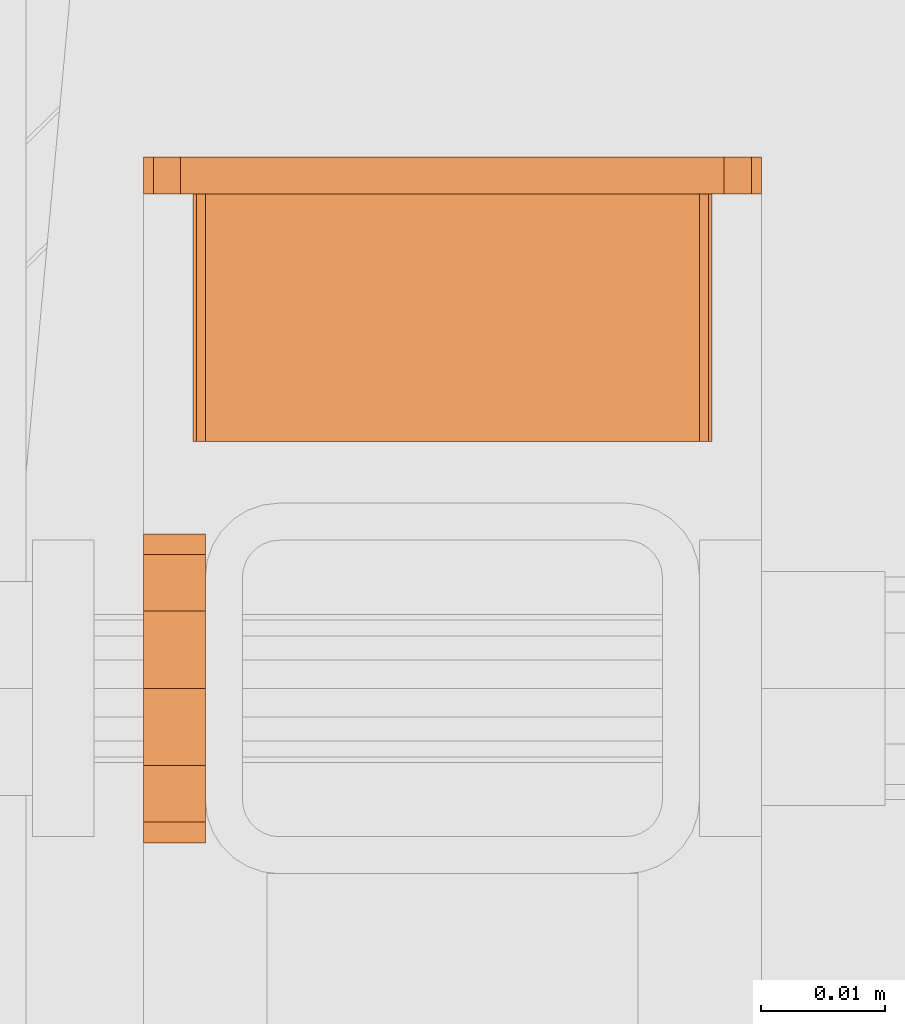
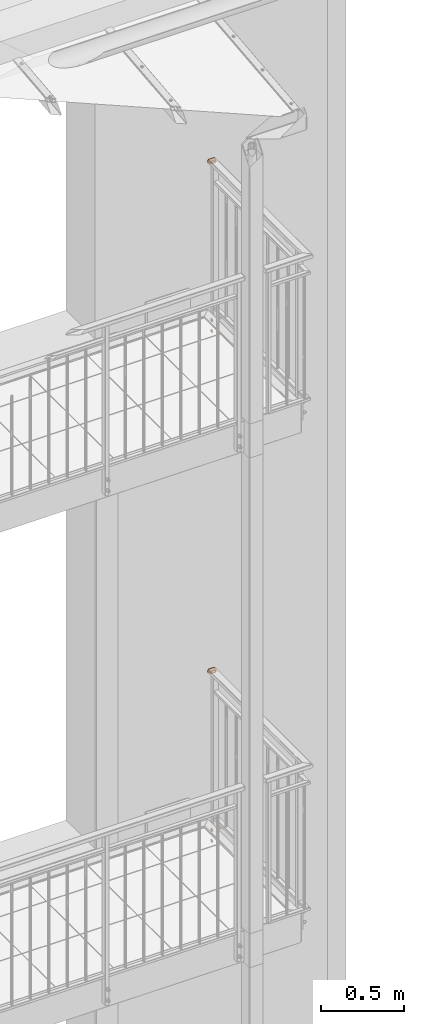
# One storey, part 146 of 162: 6 proxies.
"""IFC2X3 building model written with IfcOpenShell, lengths in millimetres."""

from ifc_helpers import new_model, entity, si_unit, converted_unit, origin_with_axes, place, context, project, spatial, faceted_brep, material, element, save


model = new_model("IFC2X3")

# Units and contexts
model_context = context("Model", 3, precision=1e-09, world=origin_with_axes())
ifc_project = project(units=[si_unit("LENGTHUNIT", "METRE", prefix="MILLI"), si_unit("AREAUNIT", "SQUARE_METRE"), si_unit("VOLUMEUNIT", "CUBIC_METRE"), converted_unit("PLANEANGLEUNIT", "DEGREE", entity("IfcPlaneAngleMeasure", 0.01745329), si_unit("PLANEANGLEUNIT", "RADIAN"), dimensions=[0, 0, 0, 0, 0, 0, 0])], contexts=[model_context])

# Site, building, storey
site_placement = place(None, origin_with_axes())
site = spatial("IfcSite", under=ifc_project, at=site_placement, Name="Hermannstra?e 1a, 60318 Frankfurt", CompositionType="ELEMENT")
building_placement = place(site_placement, origin_with_axes())
building = spatial("IfcBuilding", under=site, at=building_placement, Name="Struktur 1", CompositionType="ELEMENT")
storey_placement = place(building_placement, origin_with_axes())
storey = spatial("IfcBuildingStorey", under=building, at=storey_placement, Name="Default Storey", CompositionType="ELEMENT", Elevation=0.0)

# Proxies
ifc_material = material(Name="Kein")
proxy_1_placement = place(None, origin_with_axes())
element("IfcBuildingElementProxy", 1, at=proxy_1_placement, inside=storey, material=ifc_material, ObjectType="-", context=model_context, shape_type="Brep", body=[
    faceted_brep([(5869.30936482, 2650.609373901, 12573.999), (5869.30936482, 2650.609373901, 12555.999), (5869.30936482, 2670.609373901, 12555.999), (5869.30936482, 2670.609373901, 12573.999), (5869.041415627, 2670.609373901, 12574.999), (5869.041415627, 2650.609373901, 12574.999), (5868.30936482, 2650.609373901, 12575.731050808), (5868.30936482, 2670.609373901, 12575.731050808), (5867.30936482, 2670.609373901, 12575.999), (5867.30936482, 2650.609373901, 12575.999), (5869.041415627, 2650.609373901, 12554.999), (5869.041415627, 2670.609373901, 12554.999), (5868.30936482, 2650.609373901, 12554.266949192), (5868.30936482, 2670.609373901, 12554.266949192), (5829.30936482, 2650.609373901, 12575.999), (5828.30936482, 2650.609373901, 12575.731050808), (5827.577314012, 2650.609373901, 12574.999), (5827.30936482, 2650.609373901, 12573.999), (5827.30936482, 2650.609373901, 12555.999), (5827.577314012, 2650.609373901, 12554.999), (5828.30936482, 2650.609373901, 12554.266949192), (5829.30936482, 2650.609373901, 12553.999), (5867.30936482, 2650.609373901, 12553.999), (5865.30936482, 2650.609373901, 12571.999), (5865.30936482, 2650.609373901, 12557.999), (5831.30936482, 2650.609373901, 12557.999), (5831.30936482, 2650.609373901, 12571.999), (5867.30936482, 2670.609373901, 12553.999), (5829.30936482, 2670.609373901, 12553.999), (5828.30936482, 2670.609373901, 12554.266949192), (5827.577314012, 2670.609373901, 12554.999), (5827.30936482, 2670.609373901, 12555.999), (5827.30936482, 2670.609373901, 12573.999), (5827.577314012, 2670.609373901, 12574.999), (5828.30936482, 2670.609373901, 12575.731050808), (5829.30936482, 2670.609373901, 12575.999), (5865.30936482, 2670.609373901, 12571.999), (5865.30936482, 2670.609373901, 12557.999), (5831.30936482, 2670.609373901, 12557.999), (5831.30936482, 2670.609373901, 12571.999)], [[[0, 1, 2, 3]], [[0, 3, 4, 5]], [[6, 7, 8, 9]], [[5, 4, 7, 6]], [[2, 1, 10, 11]], [[11, 10, 12, 13]], [[5, 6, 9, 14, 15, 16, 17, 18, 19, 20, 21, 22, 12, 10, 1, 0], [23, 24, 25, 26]], [[3, 2, 11, 13, 27, 28, 29, 30, 31, 32, 33, 34, 35, 8, 7, 4]], [[34, 15, 14, 35]], [[14, 9, 8, 35]], [[36, 37, 24, 23]], [[15, 34, 33, 16]], [[13, 12, 22, 27]], [[25, 24, 37, 38]], [[22, 21, 28, 27]], [[28, 21, 20, 29]], [[39, 36, 23, 26]], [[16, 33, 32, 17]], [[29, 20, 19, 30]], [[26, 25, 38, 39]], [[18, 17, 32, 31]], [[30, 19, 18, 31]]]),
    faceted_brep([(5867.30936482, 2670.609373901, 12549.999), (5867.30936482, 2673.609373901, 12549.999), (5870.30936482, 2673.609373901, 12550.802847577), (5870.30936482, 2670.609373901, 12550.802847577), (5872.505517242, 2673.609373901, 12552.999), (5872.505517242, 2670.609373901, 12552.999), (5829.30936482, 2673.609373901, 12549.999), (5829.30936482, 2670.609373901, 12549.999), (5826.30936482, 2670.609373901, 12550.802847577), (5826.30936482, 2673.609373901, 12550.802847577), (5824.113212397, 2670.609373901, 12552.999), (5824.113212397, 2673.609373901, 12552.999), (5873.30936482, 2670.609373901, 12555.999), (5873.30936482, 2670.609373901, 12573.999), (5872.505517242, 2670.609373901, 12576.999), (5870.30936482, 2670.609373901, 12579.195152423), (5867.30936482, 2670.609373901, 12579.999), (5829.30936482, 2670.609373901, 12579.999), (5826.30936482, 2670.609373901, 12579.195152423), (5824.113212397, 2670.609373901, 12576.999), (5823.30936482, 2670.609373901, 12573.999), (5823.30936482, 2670.609373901, 12555.999), (5823.30936482, 2673.609373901, 12555.999), (5823.30936482, 2673.609373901, 12573.999), (5824.113212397, 2673.609373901, 12576.999), (5826.30936482, 2673.609373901, 12579.195152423), (5829.30936482, 2673.609373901, 12579.999), (5867.30936482, 2673.609373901, 12579.999), (5870.30936482, 2673.609373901, 12579.195152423), (5872.505517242, 2673.609373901, 12576.999), (5873.30936482, 2673.609373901, 12573.999), (5873.30936482, 2673.609373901, 12555.999)], [[[0, 1, 2, 3]], [[3, 2, 4, 5]], [[6, 7, 8, 9]], [[9, 8, 10, 11]], [[5, 12, 13, 14, 15, 16, 17, 18, 19, 20, 21, 10, 8, 7, 0, 3]], [[6, 1, 0, 7]], [[11, 22, 23, 24, 25, 26, 27, 28, 29, 30, 31, 4, 2, 1, 6, 9]], [[5, 4, 31, 12]], [[13, 12, 31, 30]], [[11, 10, 21, 22]], [[28, 15, 14, 29]], [[29, 14, 13, 30]], [[15, 28, 27, 16]], [[23, 22, 21, 20]], [[17, 16, 27, 26]], [[23, 20, 19, 24]], [[25, 18, 17, 26]], [[24, 19, 18, 25]]]),
])
proxy_2_placement = place(None, origin_with_axes())
element("IfcBuildingElementProxy", 2, at=proxy_2_placement, inside=storey, material=ifc_material, ObjectType="-", context=model_context, shape_type="Brep", body=[
    faceted_brep([(5828.30936482, 2619.784056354, 11413.749), (5828.30936482, 2624.359373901, 11409.173682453), (5828.30936482, 2630.609373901, 11407.499), (5828.30936482, 2636.859373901, 11409.173682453), (5828.30936482, 2641.434691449, 11413.749), (5828.30936482, 2643.109373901, 11419.999), (5828.30936482, 2641.434691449, 11426.249), (5828.30936482, 2636.859373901, 11430.824317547), (5828.30936482, 2630.609373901, 11432.499), (5828.30936482, 2624.359373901, 11430.824317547), (5828.30936482, 2619.784056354, 11426.249), (5828.30936482, 2618.109373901, 11419.999), (5828.30936482, 2630.609373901, 11413.999), (5828.30936482, 2627.609373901, 11414.802847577), (5828.30936482, 2625.413221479, 11416.999), (5828.30936482, 2624.609373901, 11419.999), (5828.30936482, 2625.413221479, 11422.999), (5828.30936482, 2627.609373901, 11425.195152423), (5828.30936482, 2630.609373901, 11425.999), (5828.30936482, 2633.609373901, 11425.195152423), (5828.30936482, 2635.805526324, 11422.999), (5828.30936482, 2636.609373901, 11419.999), (5828.30936482, 2635.805526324, 11416.999), (5828.30936482, 2633.609373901, 11414.802847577), (5823.30936482, 2619.784056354, 11413.749), (5823.30936482, 2624.359373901, 11409.173682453), (5823.30936482, 2618.109373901, 11419.999), (5823.30936482, 2619.784056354, 11426.249), (5823.30936482, 2624.359373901, 11430.824317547), (5823.30936482, 2630.609373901, 11432.499), (5823.30936482, 2636.859373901, 11430.824317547), (5823.30936482, 2641.434691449, 11426.249), (5823.30936482, 2643.109373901, 11419.999), (5823.30936482, 2641.434691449, 11413.749), (5823.30936482, 2636.859373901, 11409.173682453), (5823.30936482, 2630.609373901, 11407.499), (5823.30936482, 2625.413221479, 11422.999), (5823.30936482, 2624.609373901, 11419.999), (5823.30936482, 2625.413221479, 11416.999), (5823.30936482, 2627.609373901, 11414.802847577), (5823.30936482, 2630.609373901, 11413.999), (5823.30936482, 2633.609373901, 11414.802847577), (5823.30936482, 2635.805526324, 11416.999), (5823.30936482, 2636.609373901, 11419.999), (5823.30936482, 2635.805526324, 11422.999), (5823.30936482, 2633.609373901, 11425.195152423), (5823.30936482, 2630.609373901, 11425.999), (5823.30936482, 2627.609373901, 11425.195152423)], [[[0, 1, 2, 3, 4, 5, 6, 7, 8, 9, 10, 11], [12, 13, 14, 15, 16, 17, 18, 19, 20, 21, 22, 23]], [[0, 24, 25, 1]], [[24, 26, 27, 28, 29, 30, 31, 32, 33, 34, 35, 25], [36, 37, 38, 39, 40, 41, 42, 43, 44, 45, 46, 47]], [[38, 14, 13, 39]], [[24, 0, 11, 26]], [[14, 38, 37, 15]], [[39, 13, 12, 40]], [[1, 25, 35, 2]], [[26, 11, 10, 27]], [[15, 37, 36, 16]], [[40, 12, 23, 41]], [[2, 35, 34, 3]], [[27, 10, 9, 28]], [[16, 36, 47, 17]], [[22, 42, 41, 23]], [[3, 34, 33, 4]], [[42, 22, 21, 43]], [[28, 9, 8, 29]], [[17, 47, 46, 18]], [[20, 44, 43, 21]], [[4, 33, 32, 5]], [[45, 19, 18, 46]], [[44, 20, 19, 45]], [[29, 8, 7, 30]], [[5, 32, 31, 6]], [[30, 7, 6, 31]]]),
])
proxy_3_placement = place(None, origin_with_axes())
element("IfcBuildingElementProxy", 3, at=proxy_3_placement, inside=storey, material=ifc_material, ObjectType="-", context=model_context, shape_type="Brep", body=[
    faceted_brep([(5828.30936482, 2619.784056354, 11333.749), (5828.30936482, 2624.359373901, 11329.173682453), (5828.30936482, 2630.609373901, 11327.499), (5828.30936482, 2636.859373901, 11329.173682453), (5828.30936482, 2641.434691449, 11333.749), (5828.30936482, 2643.109373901, 11339.999), (5828.30936482, 2641.434691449, 11346.249), (5828.30936482, 2636.859373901, 11350.824317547), (5828.30936482, 2630.609373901, 11352.499), (5828.30936482, 2624.359373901, 11350.824317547), (5828.30936482, 2619.784056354, 11346.249), (5828.30936482, 2618.109373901, 11339.999), (5828.30936482, 2630.609373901, 11333.999), (5828.30936482, 2627.609373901, 11334.802847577), (5828.30936482, 2625.413221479, 11336.999), (5828.30936482, 2624.609373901, 11339.999), (5828.30936482, 2625.413221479, 11342.999), (5828.30936482, 2627.609373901, 11345.195152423), (5828.30936482, 2630.609373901, 11345.999), (5828.30936482, 2633.609373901, 11345.195152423), (5828.30936482, 2635.805526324, 11342.999), (5828.30936482, 2636.609373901, 11339.999), (5828.30936482, 2635.805526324, 11336.999), (5828.30936482, 2633.609373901, 11334.802847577), (5823.30936482, 2619.784056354, 11333.749), (5823.30936482, 2624.359373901, 11329.173682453), (5823.30936482, 2618.109373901, 11339.999), (5823.30936482, 2619.784056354, 11346.249), (5823.30936482, 2624.359373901, 11350.824317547), (5823.30936482, 2630.609373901, 11352.499), (5823.30936482, 2636.859373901, 11350.824317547), (5823.30936482, 2641.434691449, 11346.249), (5823.30936482, 2643.109373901, 11339.999), (5823.30936482, 2641.434691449, 11333.749), (5823.30936482, 2636.859373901, 11329.173682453), (5823.30936482, 2630.609373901, 11327.499), (5823.30936482, 2625.413221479, 11342.999), (5823.30936482, 2624.609373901, 11339.999), (5823.30936482, 2625.413221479, 11336.999), (5823.30936482, 2627.609373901, 11334.802847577), (5823.30936482, 2630.609373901, 11333.999), (5823.30936482, 2633.609373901, 11334.802847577), (5823.30936482, 2635.805526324, 11336.999), (5823.30936482, 2636.609373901, 11339.999), (5823.30936482, 2635.805526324, 11342.999), (5823.30936482, 2633.609373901, 11345.195152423), (5823.30936482, 2630.609373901, 11345.999), (5823.30936482, 2627.609373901, 11345.195152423)], [[[0, 1, 2, 3, 4, 5, 6, 7, 8, 9, 10, 11], [12, 13, 14, 15, 16, 17, 18, 19, 20, 21, 22, 23]], [[0, 24, 25, 1]], [[24, 26, 27, 28, 29, 30, 31, 32, 33, 34, 35, 25], [36, 37, 38, 39, 40, 41, 42, 43, 44, 45, 46, 47]], [[38, 14, 13, 39]], [[24, 0, 11, 26]], [[14, 38, 37, 15]], [[39, 13, 12, 40]], [[1, 25, 35, 2]], [[26, 11, 10, 27]], [[15, 37, 36, 16]], [[40, 12, 23, 41]], [[2, 35, 34, 3]], [[27, 10, 9, 28]], [[16, 36, 47, 17]], [[22, 42, 41, 23]], [[3, 34, 33, 4]], [[42, 22, 21, 43]], [[28, 9, 8, 29]], [[17, 47, 46, 18]], [[20, 44, 43, 21]], [[4, 33, 32, 5]], [[45, 19, 18, 46]], [[44, 20, 19, 45]], [[29, 8, 7, 30]], [[5, 32, 31, 6]], [[30, 7, 6, 31]]]),
])
proxy_4_placement = place(None, origin_with_axes())
element("IfcBuildingElementProxy", 4, at=proxy_4_placement, inside=storey, material=ifc_material, ObjectType="-", context=model_context, shape_type="Brep", body=[
    faceted_brep([(5869.30936482, 2650.609373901, 16330.999), (5869.30936482, 2650.609373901, 16312.999), (5869.30936482, 2670.609373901, 16312.999), (5869.30936482, 2670.609373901, 16330.999), (5869.041415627, 2670.609373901, 16331.999), (5869.041415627, 2650.609373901, 16331.999), (5868.30936482, 2650.609373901, 16332.731050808), (5868.30936482, 2670.609373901, 16332.731050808), (5867.30936482, 2670.609373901, 16332.999), (5867.30936482, 2650.609373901, 16332.999), (5869.041415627, 2650.609373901, 16311.999), (5869.041415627, 2670.609373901, 16311.999), (5868.30936482, 2650.609373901, 16311.266949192), (5868.30936482, 2670.609373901, 16311.266949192), (5829.30936482, 2650.609373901, 16332.999), (5828.30936482, 2650.609373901, 16332.731050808), (5827.577314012, 2650.609373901, 16331.999), (5827.30936482, 2650.609373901, 16330.999), (5827.30936482, 2650.609373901, 16312.999), (5827.577314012, 2650.609373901, 16311.999), (5828.30936482, 2650.609373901, 16311.266949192), (5829.30936482, 2650.609373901, 16310.999), (5867.30936482, 2650.609373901, 16310.999), (5865.30936482, 2650.609373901, 16328.999), (5865.30936482, 2650.609373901, 16314.999), (5831.30936482, 2650.609373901, 16314.999), (5831.30936482, 2650.609373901, 16328.999), (5867.30936482, 2670.609373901, 16310.999), (5829.30936482, 2670.609373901, 16310.999), (5828.30936482, 2670.609373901, 16311.266949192), (5827.577314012, 2670.609373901, 16311.999), (5827.30936482, 2670.609373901, 16312.999), (5827.30936482, 2670.609373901, 16330.999), (5827.577314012, 2670.609373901, 16331.999), (5828.30936482, 2670.609373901, 16332.731050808), (5829.30936482, 2670.609373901, 16332.999), (5865.30936482, 2670.609373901, 16328.999), (5865.30936482, 2670.609373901, 16314.999), (5831.30936482, 2670.609373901, 16314.999), (5831.30936482, 2670.609373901, 16328.999)], [[[0, 1, 2, 3]], [[0, 3, 4, 5]], [[6, 7, 8, 9]], [[5, 4, 7, 6]], [[2, 1, 10, 11]], [[11, 10, 12, 13]], [[5, 6, 9, 14, 15, 16, 17, 18, 19, 20, 21, 22, 12, 10, 1, 0], [23, 24, 25, 26]], [[3, 2, 11, 13, 27, 28, 29, 30, 31, 32, 33, 34, 35, 8, 7, 4]], [[34, 15, 14, 35]], [[14, 9, 8, 35]], [[36, 37, 24, 23]], [[15, 34, 33, 16]], [[13, 12, 22, 27]], [[25, 24, 37, 38]], [[22, 21, 28, 27]], [[28, 21, 20, 29]], [[39, 36, 23, 26]], [[16, 33, 32, 17]], [[29, 20, 19, 30]], [[26, 25, 38, 39]], [[18, 17, 32, 31]], [[30, 19, 18, 31]]]),
    faceted_brep([(5867.30936482, 2670.609373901, 16306.999), (5867.30936482, 2673.609373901, 16306.999), (5870.30936482, 2673.609373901, 16307.802847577), (5870.30936482, 2670.609373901, 16307.802847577), (5872.505517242, 2673.609373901, 16309.999), (5872.505517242, 2670.609373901, 16309.999), (5829.30936482, 2673.609373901, 16306.999), (5829.30936482, 2670.609373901, 16306.999), (5826.30936482, 2670.609373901, 16307.802847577), (5826.30936482, 2673.609373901, 16307.802847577), (5824.113212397, 2670.609373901, 16309.999), (5824.113212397, 2673.609373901, 16309.999), (5873.30936482, 2670.609373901, 16312.999), (5873.30936482, 2670.609373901, 16330.999), (5872.505517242, 2670.609373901, 16333.999), (5870.30936482, 2670.609373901, 16336.195152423), (5867.30936482, 2670.609373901, 16336.999), (5829.30936482, 2670.609373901, 16336.999), (5826.30936482, 2670.609373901, 16336.195152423), (5824.113212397, 2670.609373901, 16333.999), (5823.30936482, 2670.609373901, 16330.999), (5823.30936482, 2670.609373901, 16312.999), (5823.30936482, 2673.609373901, 16312.999), (5823.30936482, 2673.609373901, 16330.999), (5824.113212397, 2673.609373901, 16333.999), (5826.30936482, 2673.609373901, 16336.195152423), (5829.30936482, 2673.609373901, 16336.999), (5867.30936482, 2673.609373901, 16336.999), (5870.30936482, 2673.609373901, 16336.195152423), (5872.505517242, 2673.609373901, 16333.999), (5873.30936482, 2673.609373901, 16330.999), (5873.30936482, 2673.609373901, 16312.999)], [[[0, 1, 2, 3]], [[3, 2, 4, 5]], [[6, 7, 8, 9]], [[9, 8, 10, 11]], [[5, 12, 13, 14, 15, 16, 17, 18, 19, 20, 21, 10, 8, 7, 0, 3]], [[6, 1, 0, 7]], [[11, 22, 23, 24, 25, 26, 27, 28, 29, 30, 31, 4, 2, 1, 6, 9]], [[5, 4, 31, 12]], [[13, 12, 31, 30]], [[11, 10, 21, 22]], [[28, 15, 14, 29]], [[29, 14, 13, 30]], [[15, 28, 27, 16]], [[23, 22, 21, 20]], [[17, 16, 27, 26]], [[23, 20, 19, 24]], [[25, 18, 17, 26]], [[24, 19, 18, 25]]]),
])
proxy_5_placement = place(None, origin_with_axes())
element("IfcBuildingElementProxy", 5, at=proxy_5_placement, inside=storey, material=ifc_material, ObjectType="-", context=model_context, shape_type="Brep", body=[
    faceted_brep([(5828.30936482, 2619.784056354, 15170.749), (5828.30936482, 2624.359373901, 15166.173682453), (5828.30936482, 2630.609373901, 15164.499), (5828.30936482, 2636.859373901, 15166.173682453), (5828.30936482, 2641.434691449, 15170.749), (5828.30936482, 2643.109373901, 15176.999), (5828.30936482, 2641.434691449, 15183.249), (5828.30936482, 2636.859373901, 15187.824317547), (5828.30936482, 2630.609373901, 15189.499), (5828.30936482, 2624.359373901, 15187.824317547), (5828.30936482, 2619.784056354, 15183.249), (5828.30936482, 2618.109373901, 15176.999), (5828.30936482, 2630.609373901, 15170.999), (5828.30936482, 2627.609373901, 15171.802847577), (5828.30936482, 2625.413221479, 15173.999), (5828.30936482, 2624.609373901, 15176.999), (5828.30936482, 2625.413221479, 15179.999), (5828.30936482, 2627.609373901, 15182.195152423), (5828.30936482, 2630.609373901, 15182.999), (5828.30936482, 2633.609373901, 15182.195152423), (5828.30936482, 2635.805526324, 15179.999), (5828.30936482, 2636.609373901, 15176.999), (5828.30936482, 2635.805526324, 15173.999), (5828.30936482, 2633.609373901, 15171.802847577), (5823.30936482, 2619.784056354, 15170.749), (5823.30936482, 2624.359373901, 15166.173682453), (5823.30936482, 2618.109373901, 15176.999), (5823.30936482, 2619.784056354, 15183.249), (5823.30936482, 2624.359373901, 15187.824317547), (5823.30936482, 2630.609373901, 15189.499), (5823.30936482, 2636.859373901, 15187.824317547), (5823.30936482, 2641.434691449, 15183.249), (5823.30936482, 2643.109373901, 15176.999), (5823.30936482, 2641.434691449, 15170.749), (5823.30936482, 2636.859373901, 15166.173682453), (5823.30936482, 2630.609373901, 15164.499), (5823.30936482, 2625.413221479, 15179.999), (5823.30936482, 2624.609373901, 15176.999), (5823.30936482, 2625.413221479, 15173.999), (5823.30936482, 2627.609373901, 15171.802847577), (5823.30936482, 2630.609373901, 15170.999), (5823.30936482, 2633.609373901, 15171.802847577), (5823.30936482, 2635.805526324, 15173.999), (5823.30936482, 2636.609373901, 15176.999), (5823.30936482, 2635.805526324, 15179.999), (5823.30936482, 2633.609373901, 15182.195152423), (5823.30936482, 2630.609373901, 15182.999), (5823.30936482, 2627.609373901, 15182.195152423)], [[[0, 1, 2, 3, 4, 5, 6, 7, 8, 9, 10, 11], [12, 13, 14, 15, 16, 17, 18, 19, 20, 21, 22, 23]], [[0, 24, 25, 1]], [[24, 26, 27, 28, 29, 30, 31, 32, 33, 34, 35, 25], [36, 37, 38, 39, 40, 41, 42, 43, 44, 45, 46, 47]], [[38, 14, 13, 39]], [[24, 0, 11, 26]], [[14, 38, 37, 15]], [[39, 13, 12, 40]], [[1, 25, 35, 2]], [[26, 11, 10, 27]], [[15, 37, 36, 16]], [[40, 12, 23, 41]], [[2, 35, 34, 3]], [[27, 10, 9, 28]], [[16, 36, 47, 17]], [[22, 42, 41, 23]], [[3, 34, 33, 4]], [[42, 22, 21, 43]], [[28, 9, 8, 29]], [[17, 47, 46, 18]], [[20, 44, 43, 21]], [[4, 33, 32, 5]], [[45, 19, 18, 46]], [[44, 20, 19, 45]], [[29, 8, 7, 30]], [[5, 32, 31, 6]], [[30, 7, 6, 31]]]),
])
proxy_6_placement = place(None, origin_with_axes())
element("IfcBuildingElementProxy", 6, at=proxy_6_placement, inside=storey, material=ifc_material, ObjectType="-", context=model_context, shape_type="Brep", body=[
    faceted_brep([(5828.30936482, 2619.784056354, 15090.749), (5828.30936482, 2624.359373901, 15086.173682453), (5828.30936482, 2630.609373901, 15084.499), (5828.30936482, 2636.859373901, 15086.173682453), (5828.30936482, 2641.434691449, 15090.749), (5828.30936482, 2643.109373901, 15096.999), (5828.30936482, 2641.434691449, 15103.249), (5828.30936482, 2636.859373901, 15107.824317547), (5828.30936482, 2630.609373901, 15109.499), (5828.30936482, 2624.359373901, 15107.824317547), (5828.30936482, 2619.784056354, 15103.249), (5828.30936482, 2618.109373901, 15096.999), (5828.30936482, 2630.609373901, 15090.999), (5828.30936482, 2627.609373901, 15091.802847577), (5828.30936482, 2625.413221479, 15093.999), (5828.30936482, 2624.609373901, 15096.999), (5828.30936482, 2625.413221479, 15099.999), (5828.30936482, 2627.609373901, 15102.195152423), (5828.30936482, 2630.609373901, 15102.999), (5828.30936482, 2633.609373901, 15102.195152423), (5828.30936482, 2635.805526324, 15099.999), (5828.30936482, 2636.609373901, 15096.999), (5828.30936482, 2635.805526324, 15093.999), (5828.30936482, 2633.609373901, 15091.802847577), (5823.30936482, 2619.784056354, 15090.749), (5823.30936482, 2624.359373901, 15086.173682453), (5823.30936482, 2618.109373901, 15096.999), (5823.30936482, 2619.784056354, 15103.249), (5823.30936482, 2624.359373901, 15107.824317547), (5823.30936482, 2630.609373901, 15109.499), (5823.30936482, 2636.859373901, 15107.824317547), (5823.30936482, 2641.434691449, 15103.249), (5823.30936482, 2643.109373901, 15096.999), (5823.30936482, 2641.434691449, 15090.749), (5823.30936482, 2636.859373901, 15086.173682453), (5823.30936482, 2630.609373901, 15084.499), (5823.30936482, 2625.413221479, 15099.999), (5823.30936482, 2624.609373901, 15096.999), (5823.30936482, 2625.413221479, 15093.999), (5823.30936482, 2627.609373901, 15091.802847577), (5823.30936482, 2630.609373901, 15090.999), (5823.30936482, 2633.609373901, 15091.802847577), (5823.30936482, 2635.805526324, 15093.999), (5823.30936482, 2636.609373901, 15096.999), (5823.30936482, 2635.805526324, 15099.999), (5823.30936482, 2633.609373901, 15102.195152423), (5823.30936482, 2630.609373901, 15102.999), (5823.30936482, 2627.609373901, 15102.195152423)], [[[0, 1, 2, 3, 4, 5, 6, 7, 8, 9, 10, 11], [12, 13, 14, 15, 16, 17, 18, 19, 20, 21, 22, 23]], [[0, 24, 25, 1]], [[24, 26, 27, 28, 29, 30, 31, 32, 33, 34, 35, 25], [36, 37, 38, 39, 40, 41, 42, 43, 44, 45, 46, 47]], [[38, 14, 13, 39]], [[24, 0, 11, 26]], [[14, 38, 37, 15]], [[39, 13, 12, 40]], [[1, 25, 35, 2]], [[26, 11, 10, 27]], [[15, 37, 36, 16]], [[40, 12, 23, 41]], [[2, 35, 34, 3]], [[27, 10, 9, 28]], [[16, 36, 47, 17]], [[22, 42, 41, 23]], [[3, 34, 33, 4]], [[42, 22, 21, 43]], [[28, 9, 8, 29]], [[17, 47, 46, 18]], [[20, 44, 43, 21]], [[4, 33, 32, 5]], [[45, 19, 18, 46]], [[44, 20, 19, 45]], [[29, 8, 7, 30]], [[5, 32, 31, 6]], [[30, 7, 6, 31]]]),
])

save(model, "model.ifc")
